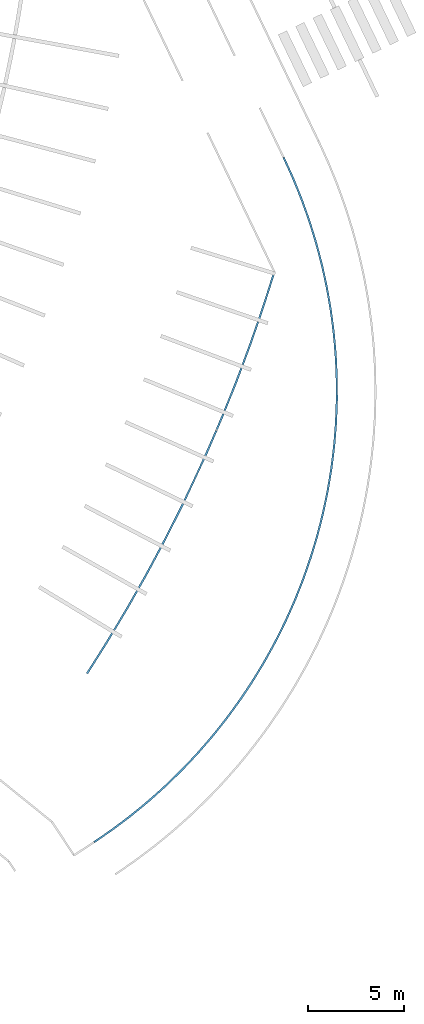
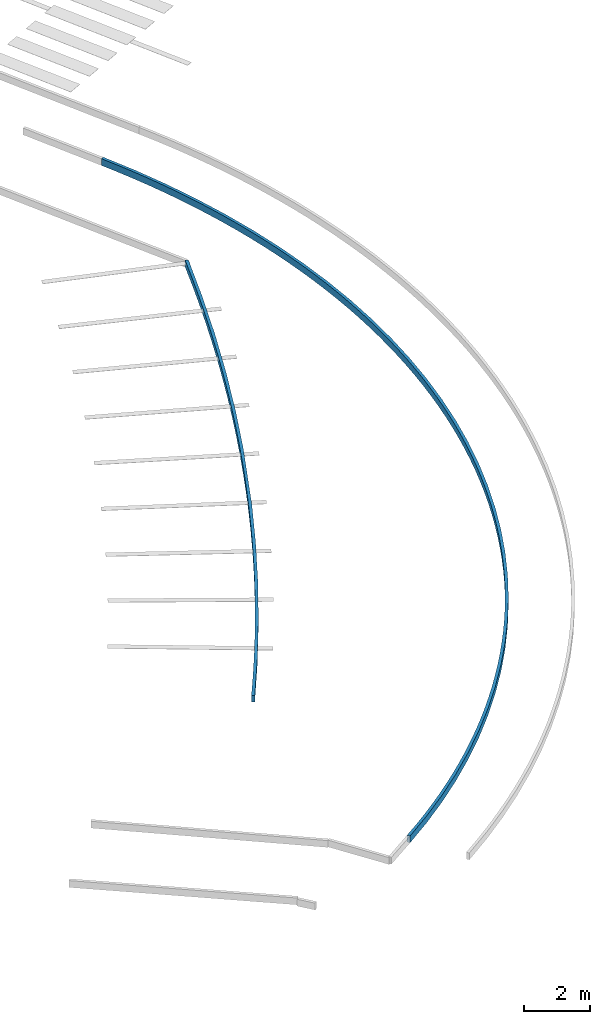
# One storey, part 116 of 157: 2 beams.
"""IFC2X3 building model written with IfcOpenShell, lengths in millimetres."""

import ifcopenshell
import ifcopenshell.guid

model = None  # the IFC model being written
_history = None  # IfcOwnerHistory: only IFC2X3 demands one
_inside = {}  # id of a spatial element -> (the spatial element, [elements in it])
_under = {}  # id of a project, library or spatial element -> (it, [spatial elements below it])
_declared = {}  # id of a project -> (the project, [libraries it declares])
_typed = {}  # id of a type object -> (the type object, [elements of that type])
_made_of = {}  # id of a material, layer set ... -> (it, [elements and type objects made of it])


def new_model(schema):
    """Start an empty IFC model of exactly this schema.

    Asked for "IFC4X3", IfcOpenShell would pick the latest addendum, in which some entities
    have other attributes; the version numbers below select the first issue.
    IFC2X3 requires an IfcOwnerHistory on every rooted entity: one is made here for all.
    """
    global model, _history
    if schema == "IFC4X3":
        model = ifcopenshell.file(schema_version=(4, 3, 0, 0))
    else:
        model = ifcopenshell.file(schema=schema)
    _inside.clear()
    _under.clear()
    _declared.clear()
    _typed.clear()
    _made_of.clear()
    _history = None
    if model.schema == "IFC2X3":
        org = make("IfcOrganization", Name="unknown")
        user = make(
            "IfcPersonAndOrganization",
            ThePerson=make("IfcPerson", FamilyName="unknown"),
            TheOrganization=org,
        )
        app = make(
            "IfcApplication",
            ApplicationDeveloper=org,
            Version="unknown",
            ApplicationFullName="unknown",
            ApplicationIdentifier="unknown",
        )
        _history = make(
            "IfcOwnerHistory",
            OwningUser=user,
            OwningApplication=app,
            ChangeAction="ADDED",
            CreationDate=0,
        )
    return model


def make(cls, **values):
    """One entity of the class cls with the attributes given. An attribute that is None is left unset."""
    return model.create_entity(
        cls, **{name: value for name, value in values.items() if value is not None}
    )


def entity(cls, *values):
    """Any entity or typed value of the class cls, its attributes in the order of the schema. None: left unset."""
    e = model.create_entity(cls)
    for i, value in enumerate(values):
        if value is not None:
            e[i] = value
    return e


def rooted(cls, **values):
    """An entity with a GlobalId (a new one), such as an element, a storey or a relation."""
    return make(cls, GlobalId=ifcopenshell.guid.new(), OwnerHistory=_history, **values)


def si_unit(unit_type, name, prefix=None):
    """IfcSIUnit, for example si_unit("LENGTHUNIT", "METRE", prefix="MILLI")."""
    return make("IfcSIUnit", UnitType=unit_type, Prefix=prefix, Name=name)


def converted_unit(unit_type, name, factor, base, dimensions=None, offset=None):
    """IfcConversionBasedUnit, such as the inch: factor (a typed value) times the base unit."""
    return make(
        "IfcConversionBasedUnit"
        if offset is None
        else "IfcConversionBasedUnitWithOffset",
        ConversionOffset=offset,
        Dimensions=None
        if dimensions is None
        else entity("IfcDimensionalExponents", *dimensions),
        UnitType=unit_type,
        Name=name,
        ConversionFactor=make(
            "IfcMeasureWithUnit", ValueComponent=factor, UnitComponent=base
        ),
    )


def derived_unit(unit_type, elements):
    """IfcDerivedUnit: a product of units, each with its exponent."""
    return make(
        "IfcDerivedUnit",
        Elements=[
            make("IfcDerivedUnitElement", Unit=unit, Exponent=power)
            for unit, power in elements
        ],
        UnitType=unit_type,
    )


def assignment(units):
    """IfcUnitAssignment: the units of a project."""
    return None if units is None else make("IfcUnitAssignment", Units=units)


def point(xyz):
    """IfcCartesianPoint."""
    return None if xyz is None else make("IfcCartesianPoint", Coordinates=xyz)


def direction(xyz):
    """IfcDirection."""
    return None if xyz is None else make("IfcDirection", DirectionRatios=xyz)


def frame(location, z_axis=None, x_axis=None):
    """IfcAxis2Placement3D, a coordinate frame: its origin and axes. An axis left out is left unset."""
    return make(
        "IfcAxis2Placement3D",
        Location=point(location),
        Axis=direction(z_axis),
        RefDirection=direction(x_axis),
    )


def origin():
    """The frame at (0, 0, 0) with its axes left unset."""
    return frame((0.0, 0.0, 0.0))


def place(relative_to, where):
    """IfcLocalPlacement: puts the frame where relative to a parent placement (None: the world)."""
    return make(
        "IfcLocalPlacement", PlacementRelTo=relative_to, RelativePlacement=where
    )


def context(
    kind, dimensions, precision=None, world=None, true_north=None, identifier=None
):
    """IfcGeometricRepresentationContext, for example the 3D "Model" context."""
    return make(
        "IfcGeometricRepresentationContext",
        ContextIdentifier=identifier,
        ContextType=kind,
        CoordinateSpaceDimension=dimensions,
        Precision=precision,
        WorldCoordinateSystem=world,
        TrueNorth=true_north,
    )


def subcontext(parent, identifier, kind, view, scale=None):
    """IfcGeometricRepresentationSubContext, for example "Body" below "Model"."""
    return make(
        "IfcGeometricRepresentationSubContext",
        ContextIdentifier=identifier,
        ContextType=kind,
        ParentContext=parent,
        TargetScale=scale,
        TargetView=view,
    )


def project(units=None, contexts=None):
    """IfcProject with its units and contexts."""
    return rooted(
        "IfcProject",
        Name="project",
        RepresentationContexts=contexts,
        UnitsInContext=assignment(units),
    )


def spatial(cls, under=None, at=None, **own):
    """A site, building, storey or space (cls), placed at a placement, below another one or the project."""
    s = rooted(cls, ObjectPlacement=at, **own)
    if under is not None:
        _under.setdefault(under.id(), (under, []))[1].append(s)
    return s


def faces_of(points, faces, orient=None, outer=None):
    """IfcFace entities. A face is a list of loops; a loop is a list of indices into points, from 0.

    orient and outer hold one flag for each loop. By default every Orientation is true, the
    first loop of a face is its IfcFaceOuterBound and the others are IfcFaceBound.
    """
    made = []
    for i, loops in enumerate(faces):
        bounds = []
        for j, loop in enumerate(loops):
            is_outer = j == 0 if outer is None else outer[i][j]
            bounds.append(
                make(
                    "IfcFaceOuterBound" if is_outer else "IfcFaceBound",
                    Bound=make("IfcPolyLoop", Polygon=[points[k] for k in loop]),
                    Orientation=True if orient is None else orient[i][j],
                )
            )
        made.append(make("IfcFace", Bounds=bounds))
    return made


def faceted_brep(points, faces, orient=None, outer=None, voids=None):
    """IfcFacetedBrep: a solid bounded by flat faces; with voids (closed shells), ...WithVoids."""
    shared = [point(p) for p in points]
    hull = make("IfcClosedShell", CfsFaces=faces_of(shared, faces, orient, outer))
    if voids is None:
        return make("IfcFacetedBrep", Outer=hull)
    return make(
        "IfcFacetedBrepWithVoids",
        Outer=hull,
        Voids=[
            make(cls, CfsFaces=faces_of(shared, fs, o, b)) for cls, fs, o, b in voids
        ],
    )


def shape(context_of_items, identifier, shape_type, items):
    """IfcShapeRepresentation: the items that make up one representation, for example the "Body"."""
    return make(
        "IfcShapeRepresentation",
        ContextOfItems=context_of_items,
        RepresentationIdentifier=identifier,
        RepresentationType=shape_type,
        Items=items,
    )


def material(Name=None, Category=None):
    """IfcMaterial."""
    return make("IfcMaterial", Name=Name, Category=Category)


def made_of(thing, what):
    """Note that an element or type object is made of a material, layer set ...; save() writes the relation."""
    if what is not None:
        _made_of.setdefault(what.id(), (what, []))[1].append(thing)
    return thing


def type_object(cls, material=None, **own):
    """A type object (cls), such as IfcWallType, which elements share."""
    return made_of(rooted(cls, **own), material)


def element(
    cls,
    number,
    at=None,
    inside=None,
    cuts=None,
    type_object=None,
    material=None,
    context=None,
    identifier="Body",
    shape_type=None,
    held_by="IfcProductDefinitionShape",
    body=None,
    shapes=None,
    **own,
):
    """One element of the class cls, such as IfcWall. Its Tag is "e" and its number.

    at: its placement. inside: the storey or other place that contains it. cuts: it is an
    opening in that element (IfcRelVoidsElement). A single representation is given by context,
    identifier, shape_type and body (its items); several are given by shapes. held_by: the class
    of the entity that holds the representations. save() writes the other relations.
    """
    e = rooted(cls, Tag="e%d" % number, ObjectPlacement=at, **own)
    if body is not None:
        shapes = [shape(context, identifier, shape_type, body)]
    if shapes is not None:
        e.Representation = make(held_by, Representations=shapes)
    if inside is not None:
        _inside.setdefault(inside.id(), (inside, []))[1].append(e)
    if cuts is not None:
        rooted(
            "IfcRelVoidsElement", RelatingBuildingElement=cuts, RelatedOpeningElement=e
        )
    if type_object is not None:
        _typed.setdefault(type_object.id(), (type_object, []))[1].append(e)
    return made_of(e, material)


def aggregate(whole, parts):
    """IfcRelAggregates: a whole, such as a stair, and the parts it consists of."""
    return rooted("IfcRelAggregates", RelatingObject=whole, RelatedObjects=parts)


def save(model, path):
    """Write the relations noted so far, then the file.

    IfcRelAggregates (storeys below a building ...), IfcRelContainedInSpatialStructure (elements
    in a storey), IfcRelDefinesByType, IfcRelAssociatesMaterial and IfcRelDeclares: one each for
    every whole, place, type object, material and project.
    """
    for whole, parts in _under.values():
        aggregate(whole, parts)
    for where, things in _inside.values():
        rooted(
            "IfcRelContainedInSpatialStructure",
            RelatedElements=things,
            RelatingStructure=where,
        )
    for kind, things in _typed.values():
        rooted("IfcRelDefinesByType", RelatedObjects=things, RelatingType=kind)
    for what, things in _made_of.values():
        rooted("IfcRelAssociatesMaterial", RelatedObjects=things, RelatingMaterial=what)
    for by, libraries in _declared.values():
        rooted("IfcRelDeclares", RelatingContext=by, RelatedDefinitions=libraries)
    model.write(path)


model = new_model("IFC2X3")

# Units and contexts
model_context = context("Model", 3, precision=0.01, world=origin(), true_north=direction((6.123031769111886e-17, 1.0)))
body_context = subcontext(model_context, "Body", "Model", "MODEL_VIEW")
ifc_project = project(units=[si_unit("LENGTHUNIT", "METRE", prefix="MILLI"), si_unit("AREAUNIT", "SQUARE_METRE"), si_unit("VOLUMEUNIT", "CUBIC_METRE"), converted_unit("PLANEANGLEUNIT", "DEGREE", entity("IfcRatioMeasure", 0.017453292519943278), si_unit("PLANEANGLEUNIT", "RADIAN"), dimensions=[0, 0, 0, 0, 0, 0, 0]), si_unit("MASSUNIT", "GRAM", prefix="KILO"), derived_unit("MASSDENSITYUNIT", [(si_unit("MASSUNIT", "GRAM", prefix="KILO"), 1), (si_unit("LENGTHUNIT", "METRE"), -3)]), derived_unit("MOMENTOFINERTIAUNIT", [(si_unit("LENGTHUNIT", "METRE"), 4)]), si_unit("TIMEUNIT", "SECOND"), si_unit("FREQUENCYUNIT", "HERTZ"), si_unit("THERMODYNAMICTEMPERATUREUNIT", "DEGREE_CELSIUS"), derived_unit("THERMALTRANSMITTANCEUNIT", [(si_unit("MASSUNIT", "GRAM", prefix="KILO"), 1), (si_unit("THERMODYNAMICTEMPERATUREUNIT", "KELVIN"), -1), (si_unit("TIMEUNIT", "SECOND"), -3)]), derived_unit("THERMALCONDUCTANCEUNIT", [(si_unit("MASSUNIT", "GRAM", prefix="KILO"), 1), (si_unit("LENGTHUNIT", "METRE"), 1), (si_unit("THERMODYNAMICTEMPERATUREUNIT", "KELVIN"), -1), (si_unit("TIMEUNIT", "SECOND"), -3)]), derived_unit("VOLUMETRICFLOWRATEUNIT", [(si_unit("LENGTHUNIT", "METRE"), 3), (si_unit("TIMEUNIT", "SECOND"), -1)]), derived_unit("MASSFLOWRATEUNIT", [(si_unit("MASSUNIT", "GRAM", prefix="KILO"), 1), (si_unit("TIMEUNIT", "SECOND"), -1)]), derived_unit("ROTATIONALFREQUENCYUNIT", [(si_unit("TIMEUNIT", "SECOND"), -1)]), si_unit("ELECTRICCURRENTUNIT", "AMPERE"), si_unit("ELECTRICVOLTAGEUNIT", "VOLT"), si_unit("POWERUNIT", "WATT"), converted_unit("FORCEUNIT", "KIP", entity("IfcRatioMeasure", 2.088543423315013e-05), si_unit("FORCEUNIT", "NEWTON"), dimensions=[1, 1, -2, 0, 0, 0, 0]), si_unit("ILLUMINANCEUNIT", "LUX"), si_unit("LUMINOUSFLUXUNIT", "LUMEN"), si_unit("LUMINOUSINTENSITYUNIT", "CANDELA"), derived_unit("USERDEFINED", [(si_unit("MASSUNIT", "GRAM", prefix="KILO"), -1), (si_unit("LENGTHUNIT", "METRE"), -2), (si_unit("TIMEUNIT", "SECOND"), 3), (si_unit("LUMINOUSFLUXUNIT", "LUMEN"), 1)]), derived_unit("USERDEFINED", [(si_unit("MASSUNIT", "GRAM", prefix="KILO"), 1), (si_unit("LENGTHUNIT", "METRE"), 3), (si_unit("TIMEUNIT", "SECOND"), -3), (si_unit("ELECTRICCURRENTUNIT", "AMPERE"), -2)]), derived_unit("USERDEFINED", [(si_unit("LENGTHUNIT", "METRE"), 2), (si_unit("TIMEUNIT", "SECOND"), -2)]), derived_unit("SOUNDPOWERUNIT", [(si_unit("MASSUNIT", "GRAM", prefix="KILO"), 1), (si_unit("LENGTHUNIT", "METRE"), 2), (si_unit("TIMEUNIT", "SECOND"), -3)]), derived_unit("SOUNDPRESSUREUNIT", [(si_unit("MASSUNIT", "GRAM", prefix="KILO"), 1), (si_unit("LENGTHUNIT", "METRE"), -1), (si_unit("TIMEUNIT", "SECOND"), -2)]), derived_unit("LINEARVELOCITYUNIT", [(si_unit("LENGTHUNIT", "METRE"), 1), (si_unit("TIMEUNIT", "SECOND"), -1)]), si_unit("PRESSUREUNIT", "PASCAL"), derived_unit("USERDEFINED", [(si_unit("LENGTHUNIT", "METRE"), -2), (si_unit("MASSUNIT", "GRAM", prefix="KILO"), 1), (si_unit("TIMEUNIT", "SECOND"), -2)]), derived_unit("LINEARFORCEUNIT", [(si_unit("MASSUNIT", "GRAM", prefix="KILO"), 1), (si_unit("LENGTHUNIT", "METRE"), 1), (si_unit("TIMEUNIT", "SECOND"), -2), (si_unit("LENGTHUNIT", "METRE"), -1)]), derived_unit("PLANARFORCEUNIT", [(si_unit("MASSUNIT", "GRAM", prefix="KILO"), 1), (si_unit("LENGTHUNIT", "METRE"), 1), (si_unit("TIMEUNIT", "SECOND"), -2), (si_unit("LENGTHUNIT", "METRE"), -2)]), derived_unit("SPECIFICHEATCAPACITYUNIT", [(si_unit("LENGTHUNIT", "METRE"), 2), (si_unit("TIMEUNIT", "SECOND"), -2), (si_unit("THERMODYNAMICTEMPERATUREUNIT", "KELVIN"), -1)]), derived_unit("VAPORPERMEABILITYUNIT", [(si_unit("TIMEUNIT", "SECOND"), 1), (si_unit("LENGTHUNIT", "METRE"), -1)]), derived_unit("DYNAMICVISCOSITYUNIT", [(si_unit("MASSUNIT", "GRAM", prefix="KILO"), 1), (si_unit("LENGTHUNIT", "METRE"), -1), (si_unit("TIMEUNIT", "SECOND"), -1)]), derived_unit("THERMALEXPANSIONCOEFFICIENTUNIT", [(si_unit("THERMODYNAMICTEMPERATUREUNIT", "KELVIN"), -1)])], contexts=[model_context])

# Site, building, storey
site_placement = place(None, frame((0.0, 0.0, 0.0), z_axis=(0.0, 0.0, 1.0), x_axis=(0.8191520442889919, 0.5735764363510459, 0.0)))
site = spatial("IfcSite", under=ifc_project, at=site_placement, Name="Default", CompositionType="ELEMENT")
building_placement = place(site_placement, origin())
building = spatial("IfcBuilding", under=site, at=building_placement, CompositionType="ELEMENT")
storey_placement = place(building_placement, origin())
storey = spatial("IfcBuildingStorey", under=building, at=storey_placement, Name="1.EG +0.00", CompositionType="ELEMENT", Elevation=-4.331468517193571e-12)

# Beams
ifc_material = material(Name="Paveta_bordur")
beam_type_1 = type_object("IfcBeamType", Name="Beam-147", PredefinedType="NOTDEFINED")
beam_1_placement = place(storey_placement, frame((-13871.259541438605, -152301.8678080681, 260.0)))
element("IfcBeam", 1, at=beam_1_placement, inside=storey, type_object=beam_type_1, material=ifc_material, Name="Beam-147:Beam-147", ObjectType="Beam-147:Beam-147", context=body_context, shape_type="Brep", body=[
    faceted_brep([(4.402757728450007, 111.93284607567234, 250.0), (4.402757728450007, 111.93284607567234, 0.0), (1.5952722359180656, 11.972263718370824, 0.0), (1.5952722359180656, 11.972263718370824, 250.0), (28467.713569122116, 23501.567145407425, 0.0), (28369.037566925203, 23517.78585652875, 0.0), (28369.037566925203, 23517.78585652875, 250.0), (28467.713569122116, 23501.567145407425, 250.0), (23495.762369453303, 11582.468364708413, 0.0), (22780.186437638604, 10638.43746536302, 0.0), (22025.389925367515, 9725.461300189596, 0.0), (21232.718993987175, 8845.168140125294, 0.0), (20403.587352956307, 7999.127966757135, 0.0), (19539.47373852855, 7188.849672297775, 0.0), (18641.919276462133, 6415.778368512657, 0.0), (17712.524733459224, 5681.29280939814, 0.0), (16752.94766223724, 4986.702932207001, 0.0), (15764.899445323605, 4333.247521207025, 0.0), (14750.14224284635, 3722.091998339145, 0.0), (13710.485849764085, 3154.326344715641, 0.0), (12647.784468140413, 2630.963156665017, 0.0), (11563.933400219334, 2152.9358397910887, 0.0), (10460.865668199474, 1721.0969442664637, 0.0), (9340.5485667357, 1336.216644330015, 0.0), (8204.980154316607, 998.9813646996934, 0.0), (7056.185689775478, 709.9925563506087, 0.0), (5896.214020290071, 469.7656238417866, 0.0), (4727.1339273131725, 278.72900610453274, 0.0), (3551.0304369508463, 137.22341233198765, 0.0), (2370.001101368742, 45.501214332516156, 0.0), (1186.1522578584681, 3.7259964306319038, 0.0), (594.5263598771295, 101.59284921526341, 0.0), (1184.736723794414, 103.71597724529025, 0.0), (1774.7706636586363, 118.3012834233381, 0.0), (2364.3650723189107, 145.3422638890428, 0.0), (2953.2570386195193, 184.82686056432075, 0.0), (3541.183964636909, 236.73746653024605, 0.0), (4127.8836827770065, 301.0509338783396, 0.0), (4713.094572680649, 377.73858403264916, 0.0), (5296.555677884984, 466.7662205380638, 0.0), (5878.006822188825, 568.0941443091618, 0.0), (6457.188725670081, 681.6771713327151, 0.0), (7033.843120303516, 807.4646528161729, 0.0), (7607.712865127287, 945.4004977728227, 0.0), (8178.54206090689, 1095.4231980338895, 0.0), (8746.076164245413, 1257.4658556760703, 0.0), (9310.062101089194, 1431.4562128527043, 0.0), (9870.24837957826, 1617.3166840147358, 0.0), (10426.385202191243, 1814.9643905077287, 0.0), (10978.224577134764, 2024.3111975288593, 0.0), (11525.520428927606, 2245.2637534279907, 0.0), (12068.028708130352, 2477.7235313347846, 0.0), (12605.507500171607, 2721.5868730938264, 0.0), (13137.7171332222, 2976.7450354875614, 0.0), (13664.42028506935, 3243.0842387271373, 0.0), (14185.382088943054, 3520.4857171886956, 0.0), (14700.370238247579, 3808.825772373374, 0.0), (15209.155090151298, 4107.9758280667, 0.0), (15711.50976798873, 4417.8024876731, 0.0), (16207.210262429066, 4738.16759369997, 0.0), (16696.03553136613, 5068.928289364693, 0.0), (17177.767598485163, 5409.937082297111, 0.0), (17652.191650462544, 5761.041910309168, 0.0), (18119.09613275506, 6122.086209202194, 0.0), (18578.272843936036, 6492.908982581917, 0.0), (19029.517028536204, 6873.344873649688, 0.0), (19472.627468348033, 7263.224238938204, 0.0), (19907.406572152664, 7662.373223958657, 0.0), (20333.660463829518, 8070.613840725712, 0.0), (20751.199068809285, 8487.764047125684, 0.0), (21159.836198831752, 8913.63782809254, 0.0), (21559.38963497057, 9348.045278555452, 0.0), (21949.6812088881, 9790.792688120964, 0.0), (22330.53688228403, 10241.682627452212, 0.0), (22701.786824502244, 10700.514036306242, 0.0), (23063.265488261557, 11167.08231319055, 0.0), (23414.81168347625, 11641.179406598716, 0.0), (23756.268649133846, 12122.59390778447, 0.0), (24087.484123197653, 12611.111145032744, 0.0), (24408.310410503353, 13106.513279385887, 0.0), (24718.604448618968, 13608.579401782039, 0.0), (25018.227871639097, 14117.085631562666, 0.0), (25307.047071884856, 14631.805216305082, 0.0), (25584.933259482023, 15152.508632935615, 0.0), (25851.762519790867, 15678.96369007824, 0.0), (26107.41586866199, 16210.935631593, 0.0), (26351.779305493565, 16748.18724125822, 0.0), (26584.743864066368, 17290.478948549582, 0.0), (26806.205661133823, 17837.56893546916, 0.0), (27016.065942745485, 18389.21324437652, 0.0), (27214.231128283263, 18945.16588677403, 0.0), (27400.61285219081, 19505.178952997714, 0.0), (27575.128003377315, 20069.002722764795, 0.0), (27737.698762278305, 20636.38577652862, 0.0), (27888.252635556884, 21207.07510759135, 0.0), (28026.72248842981, 21780.816234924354, 0.0), (28153.046574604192, 22357.3533166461, 0.0), (28267.168563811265, 22936.429264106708, 0.0), (28250.94980044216, 22336.982789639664, 0.0), (27985.208476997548, 21182.589095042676, 0.0), (27670.96354201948, 20040.444894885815, 0.0), (27308.77544375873, 18912.587175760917, 0.0), (26899.290135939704, 17801.027444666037, 0.0), (26443.23792571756, 16707.748141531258, 0.0), (25941.43217119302, 15634.699103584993, 0.0), (25394.767830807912, 14583.794087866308, 0.0), (24804.219867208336, 13556.907358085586, 0.0), (24170.84150842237, 12555.87034192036, 0.0), (5896.21402029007, 469.7656238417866, 250.0), (4727.1339273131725, 278.72900610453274, 250.0), (7056.185689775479, 709.9925563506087, 250.0), (8204.98015431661, 998.9813646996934, 250.0), (1186.1522578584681, 3.7259964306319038, 250.0), (3551.0304369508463, 137.22341233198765, 250.0), (9340.548566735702, 1336.216644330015, 250.0), (14750.14224284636, 3722.091998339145, 250.0), (15764.899445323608, 4333.247521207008, 250.0), (16752.947662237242, 4986.702932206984, 250.0), (17712.524733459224, 5681.292809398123, 250.0), (11563.933400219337, 2152.9358397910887, 250.0), (10460.86566819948, 1721.0969442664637, 250.0), (13710.485849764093, 3154.326344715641, 250.0), (12647.784468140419, 2630.963156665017, 250.0), (18641.919276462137, 6415.77836851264, 250.0), (2370.001101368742, 45.501214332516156, 250.0), (22780.186437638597, 10638.437465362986, 250.0), (22025.38992536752, 9725.461300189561, 250.0), (23495.762369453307, 11582.468364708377, 250.0), (24170.841508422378, 12555.870341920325, 250.0), (19539.47373852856, 7188.849672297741, 250.0), (20403.587352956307, 7999.127966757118, 250.0), (21232.71899398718, 8845.168140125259, 250.0), (24804.219867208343, 13556.90735808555, 250.0), (27308.77544375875, 18912.587175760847, 250.0), (27670.9635420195, 20040.444894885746, 250.0), (27985.208476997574, 21182.589095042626, 250.0), (28250.949800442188, 22336.982789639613, 250.0), (25394.767830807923, 14583.794087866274, 250.0), (25941.432171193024, 15634.69910358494, 250.0), (26899.29013593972, 17801.027444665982, 250.0), (26443.237925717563, 16707.74814153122, 250.0), (23414.81168347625, 11641.179406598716, 250.0), (23063.265488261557, 11167.08231319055, 250.0), (22701.786824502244, 10700.514036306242, 250.0), (22330.53688228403, 10241.682627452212, 250.0), (21949.6812088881, 9790.792688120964, 250.0), (21559.38963497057, 9348.045278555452, 250.0), (21159.836198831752, 8913.63782809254, 250.0), (20751.199068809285, 8487.764047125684, 250.0), (20333.660463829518, 8070.613840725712, 250.0), (19907.406572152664, 7662.373223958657, 250.0), (19472.627468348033, 7263.224238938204, 250.0), (19029.517028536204, 6873.344873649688, 250.0), (18578.272843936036, 6492.908982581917, 250.0), (18119.09613275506, 6122.086209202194, 250.0), (17652.191650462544, 5761.041910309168, 250.0), (17177.767598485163, 5409.937082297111, 250.0), (16696.03553136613, 5068.928289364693, 250.0), (16207.210262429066, 4738.16759369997, 250.0), (15711.50976798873, 4417.8024876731, 250.0), (15209.155090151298, 4107.9758280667, 250.0), (14700.370238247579, 3808.825772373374, 250.0), (14185.382088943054, 3520.4857171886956, 250.0), (13664.42028506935, 3243.0842387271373, 250.0), (13137.7171332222, 2976.7450354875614, 250.0), (12605.507500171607, 2721.5868730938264, 250.0), (12068.028708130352, 2477.7235313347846, 250.0), (11525.520428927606, 2245.2637534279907, 250.0), (10978.224577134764, 2024.3111975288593, 250.0), (10426.385202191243, 1814.9643905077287, 250.0), (9870.24837957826, 1617.3166840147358, 250.0), (9310.062101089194, 1431.4562128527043, 250.0), (8746.076164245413, 1257.4658556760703, 250.0), (8178.54206090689, 1095.4231980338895, 250.0), (7607.712865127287, 945.4004977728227, 250.0), (7033.843120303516, 807.4646528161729, 250.0), (6457.188725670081, 681.6771713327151, 250.0), (5878.006822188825, 568.0941443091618, 250.0), (5296.555677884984, 466.7662205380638, 250.0), (4713.094572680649, 377.73858403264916, 250.0), (4127.8836827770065, 301.0509338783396, 250.0), (3541.183964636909, 236.73746653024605, 250.0), (2953.2570386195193, 184.82686056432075, 250.0), (2364.3650723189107, 145.3422638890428, 250.0), (1774.7706636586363, 118.3012834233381, 250.0), (1184.736723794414, 103.71597724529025, 250.0), (594.5263598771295, 101.59284921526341, 250.0), (28267.168563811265, 22936.429264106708, 250.0), (28153.046574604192, 22357.3533166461, 250.0), (28026.72248842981, 21780.816234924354, 250.0), (27888.252635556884, 21207.07510759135, 250.0), (27737.698762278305, 20636.38577652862, 250.0), (27575.128003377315, 20069.002722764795, 250.0), (27400.61285219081, 19505.178952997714, 250.0), (27214.231128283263, 18945.16588677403, 250.0), (27016.065942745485, 18389.21324437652, 250.0), (26806.205661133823, 17837.56893546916, 250.0), (26584.743864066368, 17290.478948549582, 250.0), (26351.779305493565, 16748.18724125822, 250.0), (26107.41586866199, 16210.935631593, 250.0), (25851.762519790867, 15678.96369007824, 250.0), (25584.933259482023, 15152.508632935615, 250.0), (25307.047071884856, 14631.805216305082, 250.0), (25018.227871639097, 14117.085631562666, 250.0), (24718.604448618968, 13608.579401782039, 250.0), (24408.310410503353, 13106.513279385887, 250.0), (24087.484123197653, 12611.111145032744, 250.0), (23756.268649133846, 12122.59390778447, 250.0)], [[[0, 1, 2, 3]], [[4, 5, 6, 7]], [[8, 9, 10, 11, 12, 13, 14, 15, 16, 17, 18, 19, 20, 21, 22, 23, 24, 25, 26, 27, 28, 29, 30, 2, 1, 31, 32, 33, 34, 35, 36, 37, 38, 39, 40, 41, 42, 43, 44, 45, 46, 47, 48, 49, 50, 51, 52, 53, 54, 55, 56, 57, 58, 59, 60, 61, 62, 63, 64, 65, 66, 67, 68, 69, 70, 71, 72, 73, 74, 75, 76, 77, 78, 79, 80, 81, 82, 83, 84, 85, 86, 87, 88, 89, 90, 91, 92, 93, 94, 95, 96, 97, 5, 4, 98, 99, 100, 101, 102, 103, 104, 105, 106, 107]], [[26, 108, 109, 27]], [[25, 110, 108, 26]], [[24, 111, 110, 25]], [[2, 30, 112, 3]], [[113, 28, 27, 109]], [[23, 114, 111, 24]], [[115, 18, 17, 116]], [[116, 17, 16, 117]], [[117, 16, 15, 118]], [[21, 119, 120, 22]], [[20, 19, 121, 122]], [[20, 122, 119, 21]], [[121, 19, 18, 115]], [[22, 120, 114, 23]], [[118, 15, 14, 123]], [[112, 30, 29, 124]], [[124, 29, 28, 113]], [[9, 125, 126, 10]], [[8, 127, 125, 9]], [[107, 128, 127, 8]], [[129, 13, 12, 130]], [[130, 12, 11, 131]], [[10, 126, 131, 11]], [[128, 107, 106, 132]], [[133, 101, 100, 134]], [[134, 100, 99, 135]], [[135, 99, 98, 136]], [[137, 105, 104, 138]], [[103, 102, 139, 140]], [[103, 140, 138, 104]], [[139, 102, 101, 133]], [[105, 137, 132, 106]], [[136, 98, 4, 7]], [[123, 14, 13, 129]], [[141, 142, 143, 144, 145, 146, 147, 148, 149, 150, 151, 152, 153, 154, 155, 156, 157, 158, 159, 160, 161, 162, 163, 164, 165, 166, 167, 168, 169, 170, 171, 172, 173, 174, 175, 176, 177, 178, 179, 180, 181, 182, 183, 184, 185, 186, 0, 3, 112, 124, 113, 109, 108, 110, 111, 114, 120, 119, 122, 121, 115, 116, 117, 118, 123, 129, 130, 131, 126, 125, 127, 128, 132, 137, 138, 140, 139, 133, 134, 135, 136, 7, 6, 187, 188, 189, 190, 191, 192, 193, 194, 195, 196, 197, 198, 199, 200, 201, 202, 203, 204, 205, 206, 207]], [[40, 177, 176, 41]], [[39, 178, 177, 40]], [[41, 176, 175, 42]], [[45, 44, 173, 172]], [[43, 174, 173, 44]], [[42, 175, 174, 43]], [[45, 172, 171, 46]], [[31, 1, 0, 186]], [[185, 32, 31, 186]], [[32, 185, 184, 33]], [[38, 37, 180, 179]], [[36, 35, 182, 181]], [[36, 181, 180, 37]], [[179, 178, 39, 38]], [[47, 46, 171, 170]], [[58, 57, 160, 159]], [[57, 56, 161, 160]], [[59, 58, 159, 158]], [[156, 155, 62, 61]], [[61, 60, 157, 156]], [[60, 59, 158, 157]], [[63, 62, 155, 154]], [[168, 167, 50, 49]], [[49, 48, 169, 168]], [[167, 166, 51, 50]], [[54, 163, 162, 55]], [[165, 164, 53, 52]], [[164, 163, 54, 53]], [[51, 166, 165, 52]], [[56, 55, 162, 161]], [[170, 169, 48, 47]], [[64, 63, 154, 153]], [[183, 34, 33, 184]], [[182, 35, 34, 183]], [[74, 143, 142, 75]], [[73, 144, 143, 74]], [[75, 142, 141, 76]], [[79, 78, 206, 205]], [[77, 207, 206, 78]], [[76, 141, 207, 77]], [[79, 205, 204, 80]], [[67, 66, 151, 150]], [[66, 65, 152, 151]], [[68, 67, 150, 149]], [[146, 145, 72, 71]], [[70, 69, 148, 147]], [[71, 70, 147, 146]], [[149, 148, 69, 68]], [[72, 145, 144, 73]], [[81, 80, 204, 203]], [[92, 91, 193, 192]], [[91, 90, 194, 193]], [[93, 92, 192, 191]], [[189, 188, 96, 95]], [[95, 94, 190, 189]], [[94, 93, 191, 190]], [[97, 96, 188, 187]], [[201, 200, 84, 83]], [[83, 82, 202, 201]], [[200, 199, 85, 84]], [[88, 196, 195, 89]], [[198, 197, 87, 86]], [[197, 196, 88, 87]], [[85, 199, 198, 86]], [[90, 89, 195, 194]], [[203, 202, 82, 81]], [[5, 97, 187, 6]], [[152, 65, 64, 153]]]),
])
beam_type_2 = type_object("IfcBeamType", Name="Beam-141", PredefinedType="NOTDEFINED")
beam_2_placement = place(storey_placement, frame((-9177.73929505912, -144914.78693482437, 260.0)))
element("IfcBeam", 2, at=beam_2_placement, inside=storey, type_object=beam_type_2, material=ifc_material, Name="Beam-141 236813:Beam-141 236813", ObjectType="Beam-141 236813:Beam-141 236813", context=body_context, shape_type="Brep", body=[
    faceted_brep([(19901.286193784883, 11583.380321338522, 0.0), (19901.286193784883, 11583.380321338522, 250.0), (19962.799263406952, 11504.537805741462, 250.0), (19962.799263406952, 11504.537805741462, 0.0), (39.11835883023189, 1.5952722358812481, 250.0), (1.5952722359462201, 94.28841099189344, 250.0), (1.5952722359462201, 94.28841099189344, 0.0), (39.11835883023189, 1.5952722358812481, 0.0), (17497.633201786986, 9777.15917787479, 250.0), (18306.10632186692, 10369.537001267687, 250.0), (18306.10632186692, 10369.537001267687, 0.0), (17497.633201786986, 9777.15917787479, 0.0), (16682.061650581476, 9194.593030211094, 0.0), (16682.061650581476, 9194.593030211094, 250.0), (19107.362978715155, 10971.640016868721, 250.0), (19107.362978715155, 10971.640016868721, 0.0), (15859.510736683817, 8621.923609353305, 0.0), (15859.510736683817, 8621.923609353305, 250.0), (12501.930116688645, 6431.863390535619, 250.0), (13351.187681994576, 6964.124472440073, 250.0), (13351.187681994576, 6964.124472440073, 0.0), (12501.930116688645, 6431.863390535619, 0.0), (11646.303462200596, 5909.902376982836, 0.0), (11646.303462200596, 5909.902376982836, 250.0), (14193.952171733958, 7506.60791584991, 250.0), (15030.10054747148, 8059.234521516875, 250.0), (15030.10054747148, 8059.234521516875, 0.0), (14193.952171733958, 7506.60791584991, 0.0), (10784.432634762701, 5398.317634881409, 250.0), (10784.432634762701, 5398.317634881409, 0.0), (9916.443462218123, 4897.183852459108, 0.0), (9916.443462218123, 4897.183852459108, 250.0), (8162.617840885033, 3926.560280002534, 250.0), (8162.617840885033, 3926.560280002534, 0.0), (7277.037439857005, 3457.2121950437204, 0.0), (7277.037439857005, 3457.2121950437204, 250.0), (6385.850751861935, 2998.598459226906, 0.0), (6385.850751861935, 2998.598459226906, 250.0), (9042.462665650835, 4406.574192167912, 250.0), (9042.462665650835, 4406.574192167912, 0.0), (5489.187884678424, 2550.7860273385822, 250.0), (5489.187884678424, 2550.7860273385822, 0.0), (1850.4043595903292, 868.8330436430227, 250.0), (2767.655163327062, 1272.802392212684, 250.0), (2767.655163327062, 1272.802392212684, 0.0), (1850.4043595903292, 868.8330436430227, 0.0), (928.3395239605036, 475.9759316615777, 250.0), (928.3395239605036, 475.9759316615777, 0.0), (3679.958022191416, 1687.82500032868, 250.0), (4587.1797455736, 2113.84027724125, 250.0), (4587.1797455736, 2113.84027724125, 0.0), (3679.958022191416, 1687.82500032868, 0.0), (1199.2120420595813, 487.6077771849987, 250.0), (1890.156269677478, 777.0736536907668, 250.0), (2806.035906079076, 1187.063298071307, 250.0), (3721.9155424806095, 1597.052942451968, 250.0), (4627.621028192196, 2029.053625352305, 250.0), (5533.326513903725, 2461.054308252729, 250.0), (6428.328958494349, 2914.8137611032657, 250.0), (7323.331403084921, 3368.573213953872, 250.0), (8207.108166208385, 3843.8264620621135, 250.0), (9090.884929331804, 4319.079710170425, 250.0), (10394.374851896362, 5071.6499678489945, 250.0), (11697.864774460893, 5824.220225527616, 250.0), (12551.334542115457, 6351.966729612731, 250.0), (13404.804309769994, 6879.7132336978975, 250.0), (14245.272745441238, 7427.928360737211, 250.0), (15085.74118111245, 7976.143487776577, 250.0), (15912.7174898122, 8544.5071052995, 250.0), (16739.69379851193, 9112.870722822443, 250.0), (17552.695064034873, 9701.050932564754, 250.0), (18365.696329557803, 10289.231142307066, 250.0), (19164.24779648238, 10896.884474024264, 250.0), (12551.334542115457, 6351.966729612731, 0.0), (13404.80430977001, 6879.713233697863, 0.0), (11697.864774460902, 5824.220225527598, 0.0), (16739.69379851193, 9112.870722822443, 0.0), (17552.695064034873, 9701.050932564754, 0.0), (18365.696329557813, 10289.231142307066, 0.0), (19164.24779648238, 10896.884474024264, 0.0), (14245.272745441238, 7427.928360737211, 0.0), (15085.741181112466, 7976.14348777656, 0.0), (964.63731425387, 389.33446296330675, 0.0), (1890.1562696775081, 777.0736536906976, 0.0), (15912.7174898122, 8544.5071052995, 0.0), (9090.884929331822, 4319.07971017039, 0.0), (10394.374851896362, 5071.6499678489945, 0.0), (7323.331403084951, 3368.573213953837, 0.0), (8207.108166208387, 3843.8264620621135, 0.0), (4627.621028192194, 2029.053625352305, 0.0), (5533.326513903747, 2461.054308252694, 0.0), (3721.915542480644, 1597.0529424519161, 0.0), (2806.035906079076, 1187.063298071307, 0.0), (6428.328958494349, 2914.8137611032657, 0.0)], [[[0, 1, 2, 3]], [[4, 5, 6, 7]], [[8, 9, 10, 11]], [[8, 11, 12, 13]], [[14, 15, 10, 9]], [[0, 15, 14, 1]], [[13, 12, 16, 17]], [[18, 19, 20, 21]], [[18, 21, 22, 23]], [[24, 25, 26, 27]], [[19, 24, 27, 20]], [[17, 16, 26, 25]], [[28, 23, 22, 29]], [[29, 30, 31, 28]], [[32, 33, 34, 35]], [[35, 34, 36, 37]], [[38, 31, 30, 39]], [[38, 39, 33, 32]], [[40, 37, 36, 41]], [[42, 43, 44, 45]], [[46, 42, 45, 47]], [[48, 49, 50, 51]], [[43, 48, 51, 44]], [[40, 41, 50, 49]], [[5, 46, 47, 6]], [[37, 40, 49, 48, 43, 42, 46, 5, 4, 52, 53, 54, 55, 56, 57, 58, 59, 60, 61, 62, 63, 64, 65, 66, 67, 68, 69, 70, 71, 72, 2, 1, 14, 9, 8, 13, 17, 25, 24, 19, 18, 23, 28, 31, 38, 32, 35]], [[73, 74, 65, 64, 63, 75]], [[71, 70, 69, 76, 77, 78]], [[3, 2, 72, 71, 78, 79]], [[67, 66, 65, 74, 80, 81]], [[4, 7, 82, 83, 53, 52]], [[69, 68, 67, 81, 84, 76]], [[63, 62, 61, 85, 86, 75]], [[61, 60, 59, 87, 88, 85]], [[89, 90, 57, 56, 55, 91]], [[54, 53, 83, 92, 91, 55]], [[59, 58, 57, 90, 93, 87]], [[36, 34, 33, 39, 30, 29, 22, 21, 20, 27, 26, 16, 12, 11, 10, 15, 0, 3, 79, 78, 77, 76, 84, 81, 80, 74, 73, 75, 86, 85, 88, 87, 93, 90, 89, 91, 92, 83, 82, 7, 6, 47, 45, 44, 51, 50, 41]]]),
])

save(model, "model.ifc")
